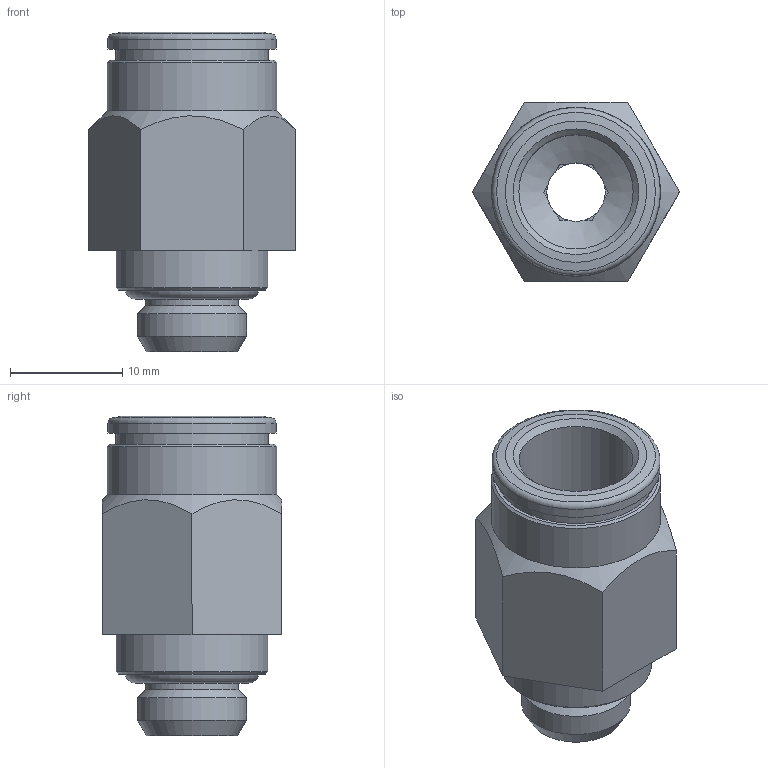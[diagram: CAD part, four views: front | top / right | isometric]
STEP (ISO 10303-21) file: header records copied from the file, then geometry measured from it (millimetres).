
FILE_DESCRIPTION(/* description */ (''),/* implementation_level */ '2;1');
FILE_NAME(/* name */ 'V200129_IPSO01_10_G18_30.08.16',/* time_stamp */ '2016-08-30T09:02:01+02:00',/* author */ (''),/* organization */ (''),/* preprocessor_version */ 'ST-DEVELOPER v16.5',/* originating_system */ 'HiCAD 2016 2101.0 Build 254',/* authorisation */ '');
FILE_SCHEMA (('AUTOMOTIVE_DESIGN { 1 0 10303 214 1 1 1 1 }'));
Length unit declared in the file: millimetre
Products named in the file (4): Root; DR10-N; OR 7.2X1.9; R200129-i1
Assembly tree (3 placements, depth 2):
  Root
    DR10-N
    OR 7.2X1.9
    R200129-i1
Bounding box: 18.48 x 16 x 28.5 mm (x, y, z)
Volume: 2826.5 mm3; surface area: 3393.2 mm2
Topology: 3 solids, 3 shells, 63 faces, 150 edges, 96 vertices
Faces by surface type: plane 33, cone 14, cylinder 12, torus 4
Full cylindrical faces by diameter (mm): 5.2 x1, 8.3 x1, 9.728 x1, 10.2 x2, 12.3 x1, 13 x1, 13.5 x1, 13.6 x1, 13.7 x1, 15 x1, 15.1 x1
Entity records: 2747 total; most frequent: DIRECTION 312, CARTESIAN_POINT 261, PRESENTATION_STYLE_ASSIGNMENT 219, COLOUR_RGB 218, DRAUGHTING_PRE_DEFINED_CURVE_FONT 216, CURVE_STYLE 216, OVER_RIDING_STYLED_ITEM 216, ORIENTED_EDGE 216
